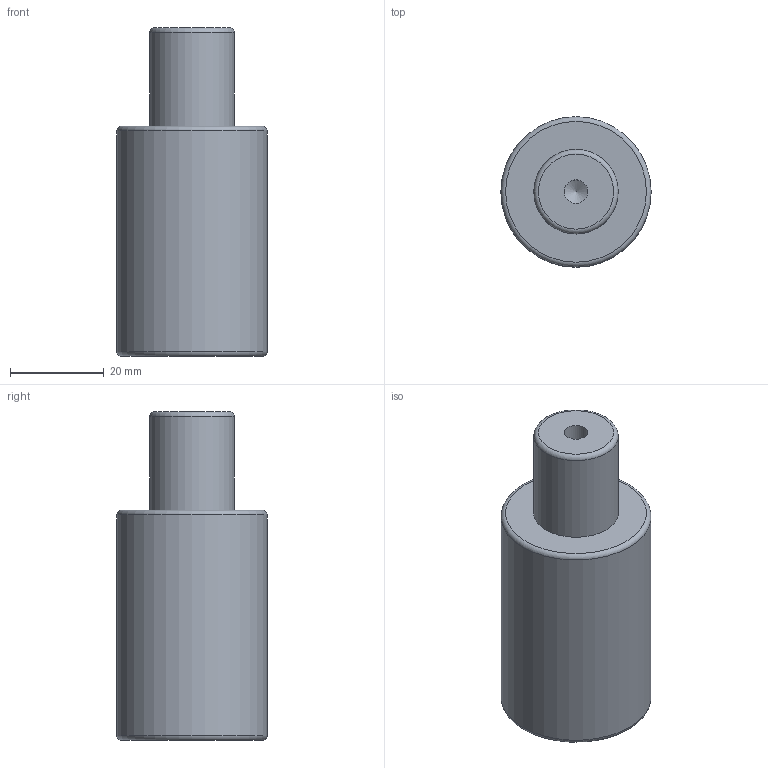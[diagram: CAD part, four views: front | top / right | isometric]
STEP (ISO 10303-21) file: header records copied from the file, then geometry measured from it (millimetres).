
FILE_DESCRIPTION(/* description */ (''),/* implementation_level */ '2;1');
FILE_NAME(/* name */ 'NV5-SMLX.32x20.stp',/* time_stamp */ '2018-08-31T16:08:37+02:00',/* author */ (''),/* organization */ (''),/* preprocessor_version */ 'ST-DEVELOPER v16',/* originating_system */ 'SIEMENS PLM Software NX 10.0',/* authorisation */ '');
FILE_SCHEMA (('AUTOMOTIVE_DESIGN { 1 0 10303 214 3 1 1 1 }'));
Length unit declared in the file: millimetre
Products named in the file (1): NV5-SMLX.32x20
Bounding box: 32 x 32 x 70 mm (x, y, z)
Volume: 44246 mm3; surface area: 7962.3 mm2
Topology: 1 solids, 1 shells, 12 faces, 24 edges, 15 vertices
Faces by surface type: cylinder 4, torus 3, plane 3, cone 2
Full cylindrical faces by diameter (mm): 5 x2, 18 x1, 32 x1
Entity records: 266 total; most frequent: DIRECTION 48, CARTESIAN_POINT 37, FACE_BOUND 24, AXIS2_PLACEMENT_3D 24, EDGE_LOOP 22, ORIENTED_EDGE 22, VERTEX_POINT 13, ADVANCED_FACE 12
